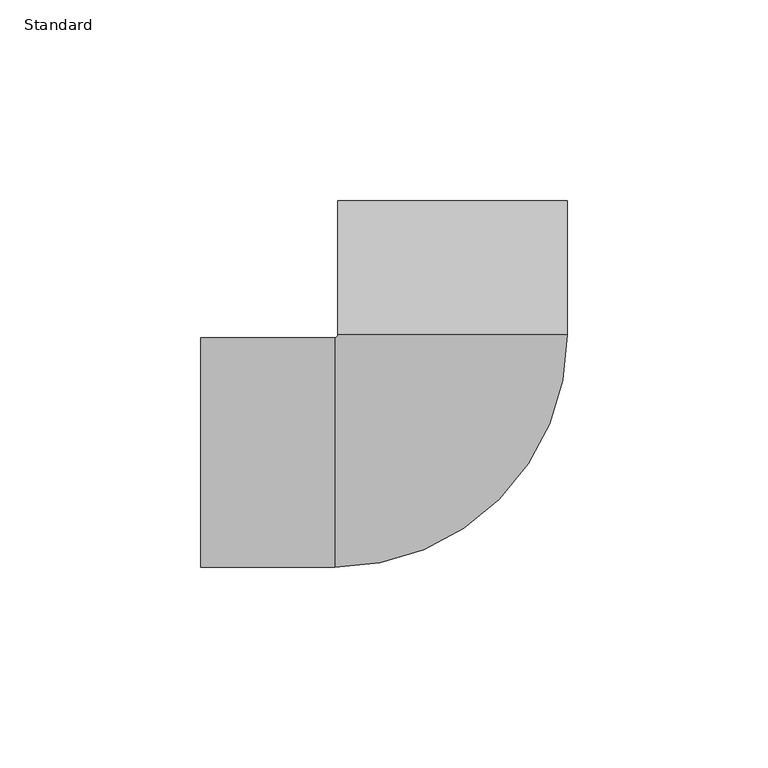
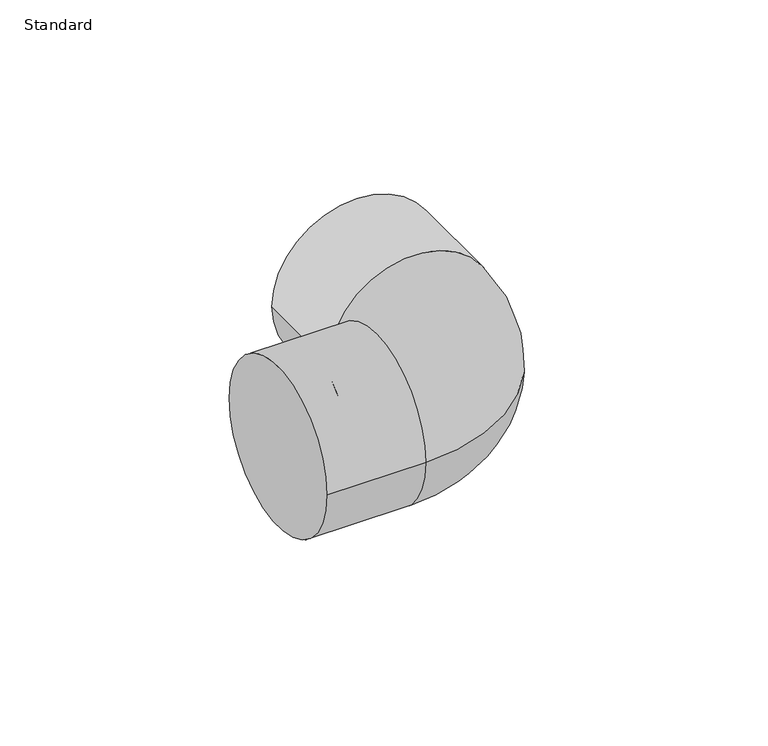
"""IFC4 building model written with IfcOpenShell, lengths in millimetres: pipe fitting geometry, M_Elbow - CPVC - Sch 40 : Standard."""

from ifc_helpers import new_model, si_unit, point, frame, origin, place, context, project, spatial, circle_curve, ellipse_curve, trimmed, source, transform, mapped, element, save
from ifc_brep_helpers import plane_surface, cylinder_surface, revolved_surface, advanced_brep


def standard_102e5625(model_context):
    return source(origin(), model_context, "Body", "AdvancedBrep", [
        advanced_brep(
        [(-62.71895, -28.575, 0.0), (-62.71895, 28.575, 0.0), (-29.36875, -28.575, 0.0), (-29.36875, 28.575, 0.0), (-28.575, 29.36875, 0.0), (28.575, 29.36875, 0.0), (28.575, 62.71895, 0.0), (-28.575, 62.71895, 0.0)],
        [
            (0, 1, circle_curve(frame((-62.71895, 0.0, 0.0), z_axis=(-1.0, 0.0, 0.0), x_axis=(0.0, 1.0, 0.0)), 28.575)),
            (1, 0, circle_curve(frame((-62.71895, 0.0, 0.0), z_axis=(-1.0, 0.0, 0.0), x_axis=(0.0, 1.0, 0.0)), 28.575)),
            (0, 2),
            (2, 3, circle_curve(frame((-29.36875, 0.0, 0.0), z_axis=(-1.0, 0.0, 0.0), x_axis=(0.0, 1.0, 0.0)), 28.575)),
            (3, 1),
            (3, 2, circle_curve(frame((-29.36875, 0.0, 0.0), z_axis=(-1.0, 0.0, 0.0), x_axis=(0.0, 1.0, 0.0)), 28.575)),
            (4, 3, circle_curve(frame((-29.36875, 29.36875, 0.0), z_axis=(0.0, 0.0, -1.0), x_axis=(0.0, -1.0, 0.0)), 0.79375)),
            (2, 5, circle_curve(frame((-29.36875, 29.36875, 0.0), z_axis=(0.0, 0.0, 1.0), x_axis=(0.0, -1.0, 0.0)), 57.94375)),
            (5, 4, circle_curve(frame((0.0, 29.36875, 0.0), z_axis=(0.0, -1.0, 0.0), x_axis=(-1.0, 0.0, 0.0)), 28.575)),
            (4, 5, circle_curve(frame((0.0, 29.36875, 0.0), z_axis=(0.0, -1.0, 0.0), x_axis=(-1.0, 0.0, 0.0)), 28.575)),
            (6, 7, circle_curve(frame((0.0, 62.71895, 0.0), z_axis=(0.0, 1.0, 0.0), x_axis=(-1.0, 0.0, 0.0)), 28.575)),
            (7, 6, circle_curve(frame((0.0, 62.71895, 0.0), z_axis=(0.0, 1.0, 0.0), x_axis=(-1.0, 0.0, 0.0)), 28.575)),
            (5, 6),
            (7, 4),
        ],
        [
            plane_surface(frame((-62.71895, 0.0, 0.0), z_axis=(-1.0, 0.0, 0.0), x_axis=(0.0, 0.0, 1.0))),
            cylinder_surface(frame((-62.71895, 0.0, 0.0), z_axis=(-1.0, 0.0, 0.0), x_axis=(0.0, 1.0, 0.0)), 28.575),
            revolved_surface(trimmed(ellipse_curve(frame((-29.36875, 0.0, 0.0), z_axis=(-1.0, 0.0, 0.0), x_axis=(0.0, 1.0, 0.0)), 28.575, 28.575), [point((-29.36875, -28.575, 0.0))], [point((-29.36875, 28.575, 0.0))], True, "CARTESIAN"), (-29.36875, 29.36875, 0.0), (0.0, 0.0, 1.0)),
            revolved_surface(trimmed(ellipse_curve(frame((-29.36875, 0.0, 0.0), z_axis=(-1.0, 0.0, 0.0), x_axis=(0.0, 1.0, 0.0)), 28.575, 28.575), [point((-29.36875, 28.575, 0.0))], [point((-29.36875, -28.575, 0.0))], True, "CARTESIAN"), (-29.36875, 29.36875, 0.0), (0.0, 0.0, 1.0)),
            plane_surface(frame((0.0, 62.71895, 0.0), z_axis=(0.0, 1.0, 0.0), x_axis=(0.0, 0.0, 1.0))),
            cylinder_surface(frame((0.0, 29.36875, 0.0), z_axis=(0.0, -1.0, 0.0), x_axis=(-1.0, 0.0, 0.0)), 28.575),
        ],
        [
            (0, [[1, 2]]),
            (1, [[-1, 3, 4, 5]]),
            (1, [[-2, -5, 6, -3]]),
            (2, [[7, -4, 8, 9]]),
            (3, [[-8, -6, -7, 10]]),
            (4, [[11, 12]]),
            (5, [[-9, 13, -12, 14]]),
            (5, [[-10, -14, -11, -13]]),
        ],
    ),
    ])


if __name__ == "__main__":
    model = new_model("IFC4")
    model_context = context("Model", 3, world=origin())
    ifc_project = project(units=[si_unit("LENGTHUNIT", "METRE", prefix="MILLI")], contexts=[model_context])
    site = spatial("IfcSite", under=ifc_project)
    building = spatial("IfcBuilding", under=site)
    placement = place(None, origin())
    standard_shape = standard_102e5625(model_context)
    element("IfcPipeFitting", 1, ObjectType="M_Elbow - CPVC - Sch 40 : Standard", at=placement, inside=building, context=model_context, shape_type="MappedRepresentation", body=[
        mapped(standard_shape, transform((0.0, 0.0, 0.0), x_axis=(1.0, 0.0, 0.0), y_axis=(0.0, 1.0, 0.0), z_axis=(0.0, 0.0, 1.0))),
    ])
    save(model, "model.ifc")
